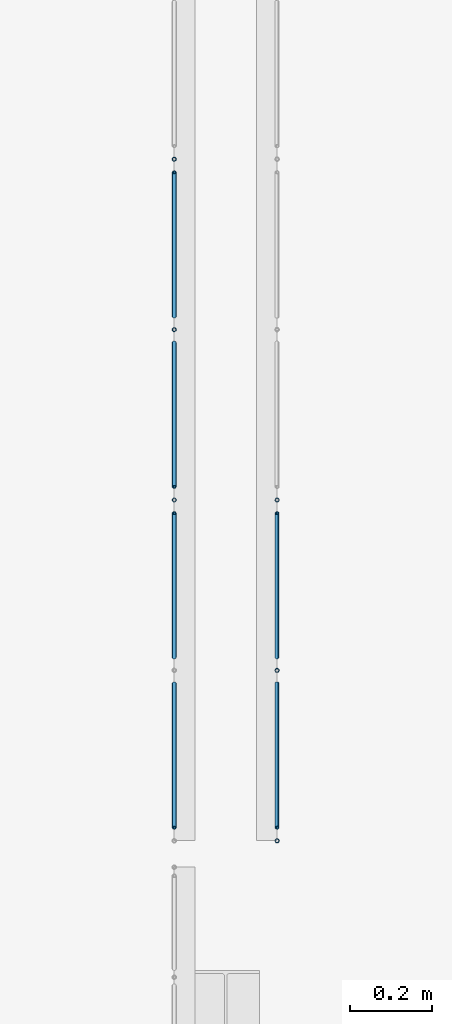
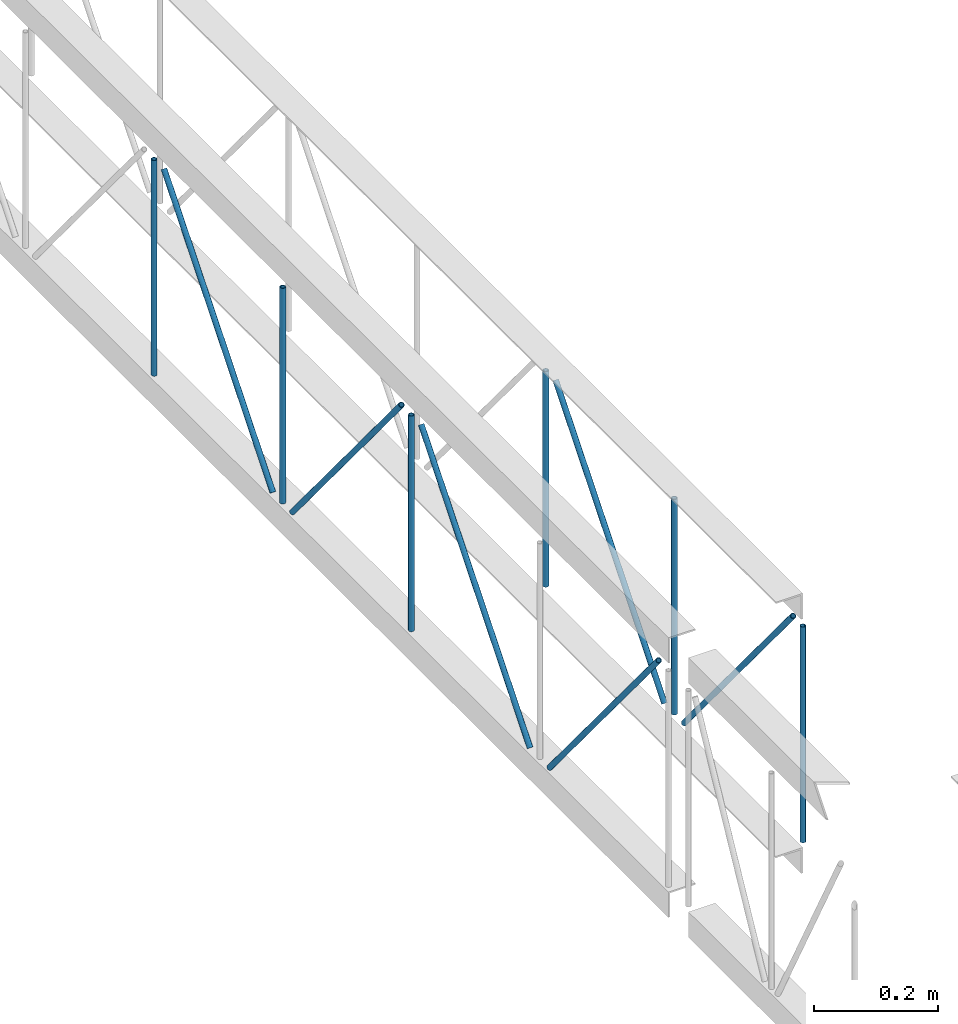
# One storey, part 88 of 153: 12 members, 2 elements without a shape of their own.
"""IFC4 building model written with IfcOpenShell, lengths in metres."""

import ifcopenshell
import ifcopenshell.guid

model = None  # the IFC model being written
_history = None  # IfcOwnerHistory: only IFC2X3 demands one
_inside = {}  # id of a spatial element -> (the spatial element, [elements in it])
_under = {}  # id of a project, library or spatial element -> (it, [spatial elements below it])
_declared = {}  # id of a project -> (the project, [libraries it declares])
_typed = {}  # id of a type object -> (the type object, [elements of that type])
_made_of = {}  # id of a material, layer set ... -> (it, [elements and type objects made of it])


def new_model(schema):
    """Start an empty IFC model of exactly this schema.

    Asked for "IFC4X3", IfcOpenShell would pick the latest addendum, in which some entities
    have other attributes; the version numbers below select the first issue.
    IFC2X3 requires an IfcOwnerHistory on every rooted entity: one is made here for all.
    """
    global model, _history
    if schema == "IFC4X3":
        model = ifcopenshell.file(schema_version=(4, 3, 0, 0))
    else:
        model = ifcopenshell.file(schema=schema)
    _inside.clear()
    _under.clear()
    _declared.clear()
    _typed.clear()
    _made_of.clear()
    _history = None
    if model.schema == "IFC2X3":
        org = make("IfcOrganization", Name="unknown")
        user = make(
            "IfcPersonAndOrganization",
            ThePerson=make("IfcPerson", FamilyName="unknown"),
            TheOrganization=org,
        )
        app = make(
            "IfcApplication",
            ApplicationDeveloper=org,
            Version="unknown",
            ApplicationFullName="unknown",
            ApplicationIdentifier="unknown",
        )
        _history = make(
            "IfcOwnerHistory",
            OwningUser=user,
            OwningApplication=app,
            ChangeAction="ADDED",
            CreationDate=0,
        )
    return model


def make(cls, **values):
    """One entity of the class cls with the attributes given. An attribute that is None is left unset."""
    return model.create_entity(
        cls, **{name: value for name, value in values.items() if value is not None}
    )


def entity(cls, *values):
    """Any entity or typed value of the class cls, its attributes in the order of the schema. None: left unset."""
    e = model.create_entity(cls)
    for i, value in enumerate(values):
        if value is not None:
            e[i] = value
    return e


def rooted(cls, **values):
    """An entity with a GlobalId (a new one), such as an element, a storey or a relation."""
    return make(cls, GlobalId=ifcopenshell.guid.new(), OwnerHistory=_history, **values)


def si_unit(unit_type, name, prefix=None):
    """IfcSIUnit, for example si_unit("LENGTHUNIT", "METRE", prefix="MILLI")."""
    return make("IfcSIUnit", UnitType=unit_type, Prefix=prefix, Name=name)


def converted_unit(unit_type, name, factor, base, dimensions=None, offset=None):
    """IfcConversionBasedUnit, such as the inch: factor (a typed value) times the base unit."""
    return make(
        "IfcConversionBasedUnit"
        if offset is None
        else "IfcConversionBasedUnitWithOffset",
        ConversionOffset=offset,
        Dimensions=None
        if dimensions is None
        else entity("IfcDimensionalExponents", *dimensions),
        UnitType=unit_type,
        Name=name,
        ConversionFactor=make(
            "IfcMeasureWithUnit", ValueComponent=factor, UnitComponent=base
        ),
    )


def derived_unit(unit_type, elements):
    """IfcDerivedUnit: a product of units, each with its exponent."""
    return make(
        "IfcDerivedUnit",
        Elements=[
            make("IfcDerivedUnitElement", Unit=unit, Exponent=power)
            for unit, power in elements
        ],
        UnitType=unit_type,
    )


def assignment(units):
    """IfcUnitAssignment: the units of a project."""
    return None if units is None else make("IfcUnitAssignment", Units=units)


def point(xyz):
    """IfcCartesianPoint."""
    return None if xyz is None else make("IfcCartesianPoint", Coordinates=xyz)


def direction(xyz):
    """IfcDirection."""
    return None if xyz is None else make("IfcDirection", DirectionRatios=xyz)


def frame(location, z_axis=None, x_axis=None):
    """IfcAxis2Placement3D, a coordinate frame: its origin and axes. An axis left out is left unset."""
    return make(
        "IfcAxis2Placement3D",
        Location=point(location),
        Axis=direction(z_axis),
        RefDirection=direction(x_axis),
    )


def origin():
    """The frame at (0, 0, 0) with its axes left unset."""
    return frame((0.0, 0.0, 0.0))


def place(relative_to, where):
    """IfcLocalPlacement: puts the frame where relative to a parent placement (None: the world)."""
    return make(
        "IfcLocalPlacement", PlacementRelTo=relative_to, RelativePlacement=where
    )


def context(
    kind, dimensions, precision=None, world=None, true_north=None, identifier=None
):
    """IfcGeometricRepresentationContext, for example the 3D "Model" context."""
    return make(
        "IfcGeometricRepresentationContext",
        ContextIdentifier=identifier,
        ContextType=kind,
        CoordinateSpaceDimension=dimensions,
        Precision=precision,
        WorldCoordinateSystem=world,
        TrueNorth=true_north,
    )


def subcontext(parent, identifier, kind, view, scale=None):
    """IfcGeometricRepresentationSubContext, for example "Body" below "Model"."""
    return make(
        "IfcGeometricRepresentationSubContext",
        ContextIdentifier=identifier,
        ContextType=kind,
        ParentContext=parent,
        TargetScale=scale,
        TargetView=view,
    )


def project(units=None, contexts=None):
    """IfcProject with its units and contexts."""
    return rooted(
        "IfcProject",
        Name="project",
        RepresentationContexts=contexts,
        UnitsInContext=assignment(units),
    )


def spatial(cls, under=None, at=None, **own):
    """A site, building, storey or space (cls), placed at a placement, below another one or the project."""
    s = rooted(cls, ObjectPlacement=at, **own)
    if under is not None:
        _under.setdefault(under.id(), (under, []))[1].append(s)
    return s


def point_list(points):
    """IfcCartesianPointList2D or 3D."""
    cls = (
        "IfcCartesianPointList2D" if len(points[0]) == 2 else "IfcCartesianPointList3D"
    )
    return make(cls, CoordList=points)


def arc(*indices):
    """IfcArcIndex: an arc through three numbered points of an indexed curve."""
    return model.create_entity("IfcArcIndex", indices)


def indexed_curve(points, segments=None, self_intersect=None):
    """IfcIndexedPolyCurve: lines and arcs through numbered points (the first is 1)."""
    return make(
        "IfcIndexedPolyCurve",
        Points=point_list(points),
        Segments=segments,
        SelfIntersect=self_intersect,
    )


def outline(outer, holes=None, kind="AREA"):
    """IfcArbitraryClosedProfileDef: a profile drawn as a closed curve; with holes, ...WithVoids."""
    if holes is None:
        return make("IfcArbitraryClosedProfileDef", ProfileType=kind, OuterCurve=outer)
    return make(
        "IfcArbitraryProfileDefWithVoids",
        ProfileType=kind,
        OuterCurve=outer,
        InnerCurves=holes,
    )


def extrude(swept, where, along, depth):
    """IfcExtrudedAreaSolid: the profile swept, set in the frame where, extruded along a direction by depth."""
    return make(
        "IfcExtrudedAreaSolid",
        SweptArea=swept,
        Position=where,
        ExtrudedDirection=direction(along),
        Depth=depth,
    )


def shape(context_of_items, identifier, shape_type, items):
    """IfcShapeRepresentation: the items that make up one representation, for example the "Body"."""
    return make(
        "IfcShapeRepresentation",
        ContextOfItems=context_of_items,
        RepresentationIdentifier=identifier,
        RepresentationType=shape_type,
        Items=items,
    )


def source(mapping_origin, context_of_items, identifier, shape_type, items):
    """IfcRepresentationMap: a shape defined once, which mapped items show again and again."""
    return make(
        "IfcRepresentationMap",
        MappingOrigin=mapping_origin,
        MappedRepresentation=shape(context_of_items, identifier, shape_type, items),
    )


def transform(
    local_origin,
    x_axis=None,
    y_axis=None,
    z_axis=None,
    scale=None,
    scale2=None,
    scale3=None,
    uniform=True,
):
    """IfcCartesianTransformationOperator3D, or its non-uniform kind. x_axis, y_axis, z_axis: its Axis1, 2, 3."""
    if uniform:
        return make(
            "IfcCartesianTransformationOperator3D",
            Axis1=direction(x_axis),
            Axis2=direction(y_axis),
            LocalOrigin=point(local_origin),
            Scale=scale,
            Axis3=direction(z_axis),
        )
    return make(
        "IfcCartesianTransformationOperator3DnonUniform",
        Axis1=direction(x_axis),
        Axis2=direction(y_axis),
        LocalOrigin=point(local_origin),
        Scale=scale,
        Axis3=direction(z_axis),
        Scale2=scale2,
        Scale3=scale3,
    )


def mapped(mapping_source, mapping_target):
    """IfcMappedItem: shows the shape of a source again, moved by a transform."""
    return make(
        "IfcMappedItem", MappingSource=mapping_source, MappingTarget=mapping_target
    )


def material(Name=None, Category=None):
    """IfcMaterial."""
    return make("IfcMaterial", Name=Name, Category=Category)


def made_of(thing, what):
    """Note that an element or type object is made of a material, layer set ...; save() writes the relation."""
    if what is not None:
        _made_of.setdefault(what.id(), (what, []))[1].append(thing)
    return thing


def type_object(cls, material=None, **own):
    """A type object (cls), such as IfcWallType, which elements share."""
    return made_of(rooted(cls, **own), material)


def type_shapes(of_type, sources):
    """Give a type object the sources (RepresentationMaps) that its elements show as mapped items."""
    of_type.RepresentationMaps = sources


def element(
    cls,
    number,
    at=None,
    inside=None,
    cuts=None,
    type_object=None,
    material=None,
    context=None,
    identifier="Body",
    shape_type=None,
    held_by="IfcProductDefinitionShape",
    body=None,
    shapes=None,
    **own,
):
    """One element of the class cls, such as IfcWall. Its Tag is "e" and its number.

    at: its placement. inside: the storey or other place that contains it. cuts: it is an
    opening in that element (IfcRelVoidsElement). A single representation is given by context,
    identifier, shape_type and body (its items); several are given by shapes. held_by: the class
    of the entity that holds the representations. save() writes the other relations.
    """
    e = rooted(cls, Tag="e%d" % number, ObjectPlacement=at, **own)
    if body is not None:
        shapes = [shape(context, identifier, shape_type, body)]
    if shapes is not None:
        e.Representation = make(held_by, Representations=shapes)
    if inside is not None:
        _inside.setdefault(inside.id(), (inside, []))[1].append(e)
    if cuts is not None:
        rooted(
            "IfcRelVoidsElement", RelatingBuildingElement=cuts, RelatedOpeningElement=e
        )
    if type_object is not None:
        _typed.setdefault(type_object.id(), (type_object, []))[1].append(e)
    return made_of(e, material)


def aggregate(whole, parts):
    """IfcRelAggregates: a whole, such as a stair, and the parts it consists of."""
    return rooted("IfcRelAggregates", RelatingObject=whole, RelatedObjects=parts)


def save(model, path):
    """Write the relations noted so far, then the file.

    IfcRelAggregates (storeys below a building ...), IfcRelContainedInSpatialStructure (elements
    in a storey), IfcRelDefinesByType, IfcRelAssociatesMaterial and IfcRelDeclares: one each for
    every whole, place, type object, material and project.
    """
    for whole, parts in _under.values():
        aggregate(whole, parts)
    for where, things in _inside.values():
        rooted(
            "IfcRelContainedInSpatialStructure",
            RelatedElements=things,
            RelatingStructure=where,
        )
    for kind, things in _typed.values():
        rooted("IfcRelDefinesByType", RelatedObjects=things, RelatingType=kind)
    for what, things in _made_of.values():
        rooted("IfcRelAssociatesMaterial", RelatedObjects=things, RelatingMaterial=what)
    for by, libraries in _declared.values():
        rooted("IfcRelDeclares", RelatingContext=by, RelatedDefinitions=libraries)
    model.write(path)


model = new_model("IFC4")

# Units and contexts
model_context = context("Model", 3, precision=1e-05, world=origin(), true_north=direction((6.123031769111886e-17, 1.0)))
body_context = subcontext(model_context, "Body", "Model", "MODEL_VIEW")
ifc_project = project(units=[si_unit("LENGTHUNIT", "METRE"), si_unit("AREAUNIT", "SQUARE_METRE"), si_unit("VOLUMEUNIT", "CUBIC_METRE"), converted_unit("PLANEANGLEUNIT", "DEGREE", entity("IfcRatioMeasure", 0.017453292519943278), si_unit("PLANEANGLEUNIT", "RADIAN"), dimensions=[0, 0, 0, 0, 0, 0, 0]), si_unit("MASSUNIT", "GRAM", prefix="KILO"), derived_unit("MASSDENSITYUNIT", [(si_unit("MASSUNIT", "GRAM", prefix="KILO"), 1), (si_unit("LENGTHUNIT", "METRE"), -3)]), derived_unit("MOMENTOFINERTIAUNIT", [(si_unit("LENGTHUNIT", "METRE"), 4)]), si_unit("TIMEUNIT", "SECOND"), si_unit("FREQUENCYUNIT", "HERTZ"), si_unit("THERMODYNAMICTEMPERATUREUNIT", "DEGREE_CELSIUS"), derived_unit("THERMALTRANSMITTANCEUNIT", [(si_unit("MASSUNIT", "GRAM", prefix="KILO"), 1), (si_unit("THERMODYNAMICTEMPERATUREUNIT", "KELVIN"), -1), (si_unit("TIMEUNIT", "SECOND"), -3)]), derived_unit("VOLUMETRICFLOWRATEUNIT", [(si_unit("LENGTHUNIT", "METRE"), 3), (si_unit("TIMEUNIT", "SECOND"), -1)]), derived_unit("MASSFLOWRATEUNIT", [(si_unit("MASSUNIT", "GRAM", prefix="KILO"), 1), (si_unit("TIMEUNIT", "SECOND"), -1)]), derived_unit("ROTATIONALFREQUENCYUNIT", [(si_unit("TIMEUNIT", "SECOND"), -1)]), si_unit("ELECTRICCURRENTUNIT", "AMPERE"), si_unit("ELECTRICVOLTAGEUNIT", "VOLT"), si_unit("POWERUNIT", "WATT"), si_unit("FORCEUNIT", "NEWTON", prefix="KILO"), si_unit("ILLUMINANCEUNIT", "LUX"), si_unit("LUMINOUSFLUXUNIT", "LUMEN"), si_unit("LUMINOUSINTENSITYUNIT", "CANDELA"), derived_unit("USERDEFINED", [(si_unit("MASSUNIT", "GRAM", prefix="KILO"), -1), (si_unit("LENGTHUNIT", "METRE"), -2), (si_unit("TIMEUNIT", "SECOND"), 3), (si_unit("LUMINOUSFLUXUNIT", "LUMEN"), 1)]), derived_unit("SOUNDPOWERUNIT", [(si_unit("MASSUNIT", "GRAM", prefix="KILO"), 1), (si_unit("LENGTHUNIT", "METRE"), 2), (si_unit("TIMEUNIT", "SECOND"), -3)]), derived_unit("SOUNDPRESSUREUNIT", [(si_unit("MASSUNIT", "GRAM", prefix="KILO"), 1), (si_unit("LENGTHUNIT", "METRE"), -1), (si_unit("TIMEUNIT", "SECOND"), -2)]), derived_unit("LINEARVELOCITYUNIT", [(si_unit("LENGTHUNIT", "METRE"), 1), (si_unit("TIMEUNIT", "SECOND"), -1)]), si_unit("PRESSUREUNIT", "PASCAL"), derived_unit("USERDEFINED", [(si_unit("LENGTHUNIT", "METRE"), -2), (si_unit("MASSUNIT", "GRAM", prefix="KILO"), 1), (si_unit("TIMEUNIT", "SECOND"), -2)]), derived_unit("LINEARFORCEUNIT", [(si_unit("MASSUNIT", "GRAM", prefix="KILO"), 1), (si_unit("LENGTHUNIT", "METRE"), 1), (si_unit("TIMEUNIT", "SECOND"), -2), (si_unit("LENGTHUNIT", "METRE"), -1)]), derived_unit("PLANARFORCEUNIT", [(si_unit("MASSUNIT", "GRAM", prefix="KILO"), 1), (si_unit("LENGTHUNIT", "METRE"), 1), (si_unit("TIMEUNIT", "SECOND"), -2), (si_unit("LENGTHUNIT", "METRE"), -2)])], contexts=[model_context])

# Site, building, storey
site_placement = place(None, origin())
site = spatial("IfcSite", under=ifc_project, at=site_placement, Name="Superficie", CompositionType="ELEMENT")
building_placement = place(site_placement, origin())
building = spatial("IfcBuilding", under=site, at=building_placement, CompositionType="ELEMENT")
storey_placement = place(building_placement, frame((0.0, 0.0, 3.5999999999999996)))
storey = spatial("IfcBuildingStorey", under=building, at=storey_placement, Name="Nivel 1", CompositionType="ELEMENT", Elevation=3.5999999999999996)

# Assembly, members
assembly_1_placement = place(storey_placement, origin())
assembly_1 = element("IfcElementAssembly", 1, at=assembly_1_placement, inside=storey, Name="Viga de celosia 13:Viga de celosia 13", ObjectType="Viga de celosia 13:Viga de celosia 13", AssemblyPlace="NOTDEFINED", PredefinedType="TRUSS")
ifc_material = material(Name="Metal - Calibre delgado", Category="Metal")
member_type_1 = type_object("IfcMemberType", Name="HSS-Tubo estructural redondo:HSS 0.01", PredefinedType="BRACE", material=ifc_material)
shared_shape_1 = source(origin(), body_context, "Body", "SweptSolid", [
    extrude(outline(indexed_curve([(-0.005000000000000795, 7.502054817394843e-18), (-9.800269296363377e-18, -0.005000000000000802), (0.005000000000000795, -7.502054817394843e-18), (8.07772287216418e-18, 0.005000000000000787)], segments=[arc(1, 2, 3), arc(3, 4, 1)], self_intersect=False), holes=[indexed_curve([(0.003999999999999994, 7.222511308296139e-17), (6.910645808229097e-17, -0.004000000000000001), (-0.003999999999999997, -1.8650054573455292e-17), (-2.9156497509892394e-17, 0.003999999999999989)], segments=[arc(1, 2, 3), arc(3, 4, 1)], self_intersect=False)]), frame((-0.21200000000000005, 0.0, 0.0), z_axis=(1.0, 0.0, 0.0), x_axis=(0.0, 1.0, 0.0)), (0.0, 0.0, 1.0), 0.4240000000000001),
])
type_shapes(member_type_1, [shared_shape_1])
member_1_placement = place(assembly_1_placement, frame((15.836799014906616, -8.305759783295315, 0.25), z_axis=(0.0, 1.0, 0.0), x_axis=(0.0, 0.0, 1.0)))
member_1 = element("IfcMember", 2, at=member_1_placement, type_object=member_type_1, material=ifc_material, Name="HSS-Tubo estructural redondo:HSS 0.01", ObjectType="HSS-Tubo estructural redondo:HSS 0.01", PredefinedType="BRACE", context=body_context, shape_type="MappedRepresentation", body=[
    mapped(shared_shape_1, transform((0.0, 0.0, 0.0), scale=1.0)),
])
member_2_placement = place(assembly_1_placement, frame((15.836799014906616, -7.891413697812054, 0.25), z_axis=(0.0, 1.0, 0.0), x_axis=(0.0, 0.0, 1.0)))
member_2 = element("IfcMember", 3, at=member_2_placement, type_object=member_type_1, material=ifc_material, Name="HSS-Tubo estructural redondo:HSS 0.01", ObjectType="HSS-Tubo estructural redondo:HSS 0.01", PredefinedType="BRACE", context=body_context, shape_type="MappedRepresentation", body=[
    mapped(shared_shape_1, transform((0.0, 0.0, 0.0), scale=1.0)),
])
member_3_placement = place(assembly_1_placement, frame((15.836799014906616, -7.477067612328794, 0.25), z_axis=(0.0, 1.0, 0.0), x_axis=(0.0, 0.0, 1.0)))
member_3 = element("IfcMember", 4, at=member_3_placement, type_object=member_type_1, material=ifc_material, Name="HSS-Tubo estructural redondo:HSS 0.01", ObjectType="HSS-Tubo estructural redondo:HSS 0.01", PredefinedType="BRACE", context=body_context, shape_type="MappedRepresentation", body=[
    mapped(shared_shape_1, transform((0.0, 0.0, 0.0), scale=1.0)),
])
member_type_2 = type_object("IfcMemberType", Name="HSS-Tubo estructural redondo:HSS 0.01", PredefinedType="BRACE", material=ifc_material)
shared_shape_2 = source(origin(), body_context, "Body", "SweptSolid", [
    extrude(outline(indexed_curve([(-0.005000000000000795, 7.502054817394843e-18), (-9.800269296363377e-18, -0.005000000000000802), (0.005000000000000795, -7.502054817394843e-18), (8.07772287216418e-18, 0.005000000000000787)], segments=[arc(1, 2, 3), arc(3, 4, 1)], self_intersect=False), holes=[indexed_curve([(0.003999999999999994, 7.222511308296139e-17), (6.910645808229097e-17, -0.004000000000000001), (-0.003999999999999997, -1.8650054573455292e-17), (-2.9156497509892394e-17, 0.003999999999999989)], segments=[arc(1, 2, 3), arc(3, 4, 1)], self_intersect=False)]), frame((-0.275, 0.0, 0.0), z_axis=(1.0, 0.0, 0.0), x_axis=(0.0, 1.0, 0.0)), (0.0, 0.0, 1.0), 0.55),
])
type_shapes(member_type_2, [shared_shape_2])
member_4_placement = place(assembly_1_placement, frame((15.836799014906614, -8.927278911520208, 0.25), z_axis=(0.0, -0.7699758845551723, -0.638072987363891), x_axis=(0.0, 0.638072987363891, -0.7699758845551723)))
member_4 = element("IfcMember", 5, at=member_4_placement, type_object=member_type_2, material=ifc_material, Name="HSS-Tubo estructural redondo:HSS 0.01", ObjectType="HSS-Tubo estructural redondo:HSS 0.01", PredefinedType="BRACE", context=body_context, shape_type="MappedRepresentation", body=[
    mapped(shared_shape_2, transform((0.0, 0.0, 0.0), scale=1.0)),
])
member_5_placement = place(assembly_1_placement, frame((15.836799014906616, -8.512932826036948, 0.2500000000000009), z_axis=(0.0, 0.7699758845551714, -0.638072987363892), x_axis=(0.0, 0.638072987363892, 0.7699758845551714)))
member_5 = element("IfcMember", 6, at=member_5_placement, type_object=member_type_2, material=ifc_material, Name="HSS-Tubo estructural redondo:HSS 0.01", ObjectType="HSS-Tubo estructural redondo:HSS 0.01", PredefinedType="BRACE", context=body_context, shape_type="MappedRepresentation", body=[
    mapped(shared_shape_2, transform((0.0, 0.0, 0.0), scale=1.0)),
])
member_6_placement = place(assembly_1_placement, frame((15.836799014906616, -8.098586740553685, 0.25000000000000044), z_axis=(0.0, -0.7699758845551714, -0.638072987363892), x_axis=(0.0, 0.638072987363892, -0.7699758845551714)))
member_6 = element("IfcMember", 7, at=member_6_placement, type_object=member_type_2, material=ifc_material, Name="HSS-Tubo estructural redondo:HSS 0.01", ObjectType="HSS-Tubo estructural redondo:HSS 0.01", PredefinedType="BRACE", context=body_context, shape_type="MappedRepresentation", body=[
    mapped(shared_shape_2, transform((0.0, 0.0, 0.0), scale=1.0)),
])
member_7_placement = place(assembly_1_placement, frame((15.836799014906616, -7.684240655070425, 0.25), z_axis=(0.0, 0.7699758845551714, -0.638072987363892), x_axis=(0.0, 0.638072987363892, 0.7699758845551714)))
member_7 = element("IfcMember", 8, at=member_7_placement, type_object=member_type_2, material=ifc_material, Name="HSS-Tubo estructural redondo:HSS 0.01", ObjectType="HSS-Tubo estructural redondo:HSS 0.01", PredefinedType="BRACE", context=body_context, shape_type="MappedRepresentation", body=[
    mapped(shared_shape_2, transform((0.0, 0.0, 0.0), scale=1.0)),
])
aggregate(assembly_1, [member_1, member_2, member_3, member_4, member_5, member_6, member_7])

assembly_2_placement = place(storey_placement, origin())
assembly_2 = element("IfcElementAssembly", 9, at=assembly_2_placement, inside=storey, Name="Viga de celosia 13:Viga de celosia 13", ObjectType="Viga de celosia 13:Viga de celosia 13", AssemblyPlace="NOTDEFINED", PredefinedType="TRUSS")
member_type_3 = type_object("IfcMemberType", Name="HSS-Tubo estructural redondo:HSS 0.01", PredefinedType="BRACE", material=ifc_material)
shared_shape_3 = source(origin(), body_context, "Body", "SweptSolid", [
    extrude(outline(indexed_curve([(-0.005000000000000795, 2.0824731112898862e-17), (-2.3122945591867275e-17, -0.005000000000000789), (0.005000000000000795, -2.08247311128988e-17), (2.14003991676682e-17, 0.005000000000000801)], segments=[arc(1, 2, 3), arc(3, 4, 1)], self_intersect=False), holes=[indexed_curve([(0.003999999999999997, -1.3094283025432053e-17), (-1.531427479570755e-18, -0.003999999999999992), (-0.004, 4.0098531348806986e-17), (4.1481388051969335e-17, 0.0039999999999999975)], segments=[arc(1, 2, 3), arc(3, 4, 1)], self_intersect=False)]), frame((-0.21200000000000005, 0.0, 0.0), z_axis=(1.0, 0.0, 0.0), x_axis=(0.0, -1.0, 0.0)), (0.0, 0.0, 1.0), 0.4240000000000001),
])
type_shapes(member_type_3, [shared_shape_3])
member_8_placement = place(assembly_2_placement, frame((16.086799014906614, -9.134451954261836, 0.25), z_axis=(0.0, 1.0, 0.0), x_axis=(0.0, 0.0, 1.0)))
member_8 = element("IfcMember", 10, at=member_8_placement, type_object=member_type_3, material=ifc_material, Name="HSS-Tubo estructural redondo:HSS 0.01", ObjectType="HSS-Tubo estructural redondo:HSS 0.01", PredefinedType="BRACE", context=body_context, shape_type="MappedRepresentation", body=[
    mapped(shared_shape_3, transform((0.0, 0.0, 0.0), scale=1.0)),
])
member_9_placement = place(assembly_2_placement, frame((16.086799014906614, -8.720105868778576, 0.25), z_axis=(0.0, 1.0, 0.0), x_axis=(0.0, 0.0, 1.0)))
member_9 = element("IfcMember", 11, at=member_9_placement, type_object=member_type_3, material=ifc_material, Name="HSS-Tubo estructural redondo:HSS 0.01", ObjectType="HSS-Tubo estructural redondo:HSS 0.01", PredefinedType="BRACE", context=body_context, shape_type="MappedRepresentation", body=[
    mapped(shared_shape_3, transform((0.0, 0.0, 0.0), scale=1.0)),
])
member_10_placement = place(assembly_2_placement, frame((16.08679901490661, -8.305759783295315, 0.25), z_axis=(0.0, 1.0, 0.0), x_axis=(0.0, 0.0, 1.0)))
member_10 = element("IfcMember", 12, at=member_10_placement, type_object=member_type_3, material=ifc_material, Name="HSS-Tubo estructural redondo:HSS 0.01", ObjectType="HSS-Tubo estructural redondo:HSS 0.01", PredefinedType="BRACE", context=body_context, shape_type="MappedRepresentation", body=[
    mapped(shared_shape_3, transform((0.0, 0.0, 0.0), scale=1.0)),
])
member_type_4 = type_object("IfcMemberType", Name="HSS-Tubo estructural redondo:HSS 0.01", PredefinedType="BRACE", material=ifc_material)
shared_shape_4 = source(origin(), body_context, "Body", "SweptSolid", [
    extrude(outline(indexed_curve([(-0.005000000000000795, 2.0824731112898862e-17), (-2.3122945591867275e-17, -0.005000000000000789), (0.005000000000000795, -2.08247311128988e-17), (2.14003991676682e-17, 0.005000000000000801)], segments=[arc(1, 2, 3), arc(3, 4, 1)], self_intersect=False), holes=[indexed_curve([(0.003999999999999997, -1.3094283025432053e-17), (-1.531427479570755e-18, -0.003999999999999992), (-0.004, 4.0098531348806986e-17), (4.1481388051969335e-17, 0.0039999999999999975)], segments=[arc(1, 2, 3), arc(3, 4, 1)], self_intersect=False)]), frame((-0.275, 0.0, 0.0), z_axis=(1.0, 0.0, 0.0), x_axis=(0.0, -1.0, 0.0)), (0.0, 0.0, 1.0), 0.55),
])
type_shapes(member_type_4, [shared_shape_4])
member_11_placement = place(assembly_2_placement, frame((16.086799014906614, -8.927278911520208, 0.25), z_axis=(0.0, -0.7699758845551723, -0.638072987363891), x_axis=(0.0, 0.638072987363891, -0.7699758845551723)))
member_11 = element("IfcMember", 13, at=member_11_placement, type_object=member_type_4, material=ifc_material, Name="HSS-Tubo estructural redondo:HSS 0.01", ObjectType="HSS-Tubo estructural redondo:HSS 0.01", PredefinedType="BRACE", context=body_context, shape_type="MappedRepresentation", body=[
    mapped(shared_shape_4, transform((0.0, 0.0, 0.0), scale=1.0)),
])
member_12_placement = place(assembly_2_placement, frame((16.08679901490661, -8.512932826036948, 0.2500000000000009), z_axis=(0.0, 0.7699758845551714, -0.638072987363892), x_axis=(0.0, 0.638072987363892, 0.7699758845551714)))
member_12 = element("IfcMember", 14, at=member_12_placement, type_object=member_type_4, material=ifc_material, Name="HSS-Tubo estructural redondo:HSS 0.01", ObjectType="HSS-Tubo estructural redondo:HSS 0.01", PredefinedType="BRACE", context=body_context, shape_type="MappedRepresentation", body=[
    mapped(shared_shape_4, transform((0.0, 0.0, 0.0), scale=1.0)),
])
aggregate(assembly_2, [member_8, member_9, member_10, member_11, member_12])

save(model, "model.ifc")
